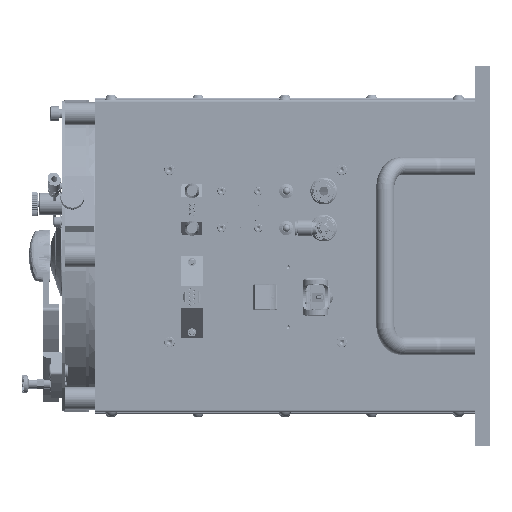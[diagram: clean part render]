
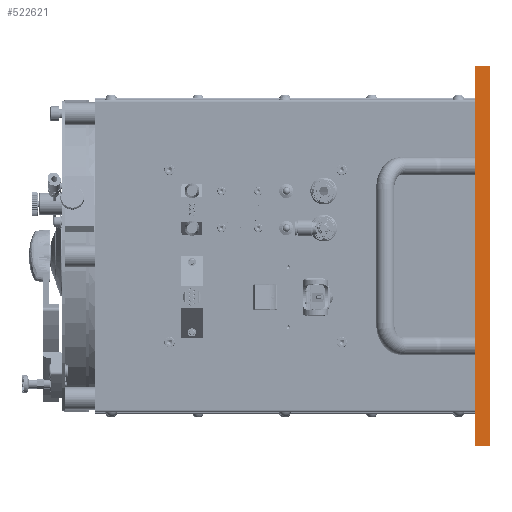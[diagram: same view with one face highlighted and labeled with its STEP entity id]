
A CAD part, left-side view. The second image highlights one B-rep face of the part: STEP entity #522621.
In plain terms, the highlighted planar face has unit normal (-1, 0, 0) as drawn and (1, 0, 0) by its records, which use the part's own axes.
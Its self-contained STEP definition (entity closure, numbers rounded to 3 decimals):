
#25924 = LINE ( 'NONE', #145370, #349287 ) ;
#35710 = LINE ( 'NONE', #38418, #159259 ) ;
#38418 = CARTESIAN_POINT ( 'NONE',  ( 300., 0., 127. ) ) ;
#58983 = EDGE_CURVE ( 'NONE', #405067, #429697, #35710, .T. ) ;
#60770 = DIRECTION ( 'NONE',  ( 0., -1., 0. ) ) ;
#71055 = DIRECTION ( 'NONE',  ( 0., 0., -1. ) ) ;
#105639 = VERTEX_POINT ( 'NONE', #171973 ) ;
#109431 = LINE ( 'NONE', #443216, #445813 ) ;
#124656 = DIRECTION ( 'NONE',  ( 0., 0., 1. ) ) ;
#131880 = EDGE_CURVE ( 'NONE', #244621, #405067, #109431, .T. ) ;
#136164 = CARTESIAN_POINT ( 'NONE',  ( 300., 10., -127. ) ) ;
#138275 = ORIENTED_EDGE ( 'NONE', *, *, #234660, .F. ) ;
#141172 = CARTESIAN_POINT ( 'NONE',  ( 300., 0., -127. ) ) ;
#142543 = AXIS2_PLACEMENT_3D ( 'NONE', #499090, #203332, #124656 ) ;
#145370 = CARTESIAN_POINT ( 'NONE',  ( 300., 10., 127. ) ) ;
#159259 = VECTOR ( 'NONE', #71055, 1000. ) ;
#162882 = ORIENTED_EDGE ( 'NONE', *, *, #466249, .F. ) ;
#171973 = CARTESIAN_POINT ( 'NONE',  ( 300., 10., -127. ) ) ;
#203332 = DIRECTION ( 'NONE',  ( -1., 0., 0. ) ) ;
#214076 = PLANE ( 'NONE',  #142543 ) ;
#218308 = VECTOR ( 'NONE', #467107, 1000. ) ;
#234660 = EDGE_CURVE ( 'NONE', #244621, #105639, #25924, .T. ) ;
#244621 = VERTEX_POINT ( 'NONE', #310057 ) ;
#299025 = LINE ( 'NONE', #136164, #218308 ) ;
#310057 = CARTESIAN_POINT ( 'NONE',  ( 300., 10., 127. ) ) ;
#334624 = EDGE_LOOP ( 'NONE', ( #421764, #162882, #138275, #391234 ) ) ;
#346297 = CARTESIAN_POINT ( 'NONE',  ( 300., 0., 127. ) ) ;
#349287 = VECTOR ( 'NONE', #400334, 1000. ) ;
#371587 = FACE_OUTER_BOUND ( 'NONE', #334624, .T. ) ;
#391234 = ORIENTED_EDGE ( 'NONE', *, *, #131880, .T. ) ;
#400334 = DIRECTION ( 'NONE',  ( 0., 0., -1. ) ) ;
#405067 = VERTEX_POINT ( 'NONE', #346297 ) ;
#421764 = ORIENTED_EDGE ( 'NONE', *, *, #58983, .T. ) ;
#429697 = VERTEX_POINT ( 'NONE', #141172 ) ;
#443216 = CARTESIAN_POINT ( 'NONE',  ( 300., 10., 127. ) ) ;
#445813 = VECTOR ( 'NONE', #60770, 1000. ) ;
#466249 = EDGE_CURVE ( 'NONE', #105639, #429697, #299025, .T. ) ;
#467107 = DIRECTION ( 'NONE',  ( 0., -1., 0. ) ) ;
#499090 = CARTESIAN_POINT ( 'NONE',  ( 300., 10., 127. ) ) ;
#522621 = ADVANCED_FACE ( 'NONE', ( #371587 ), #214076, .F. ) ;
